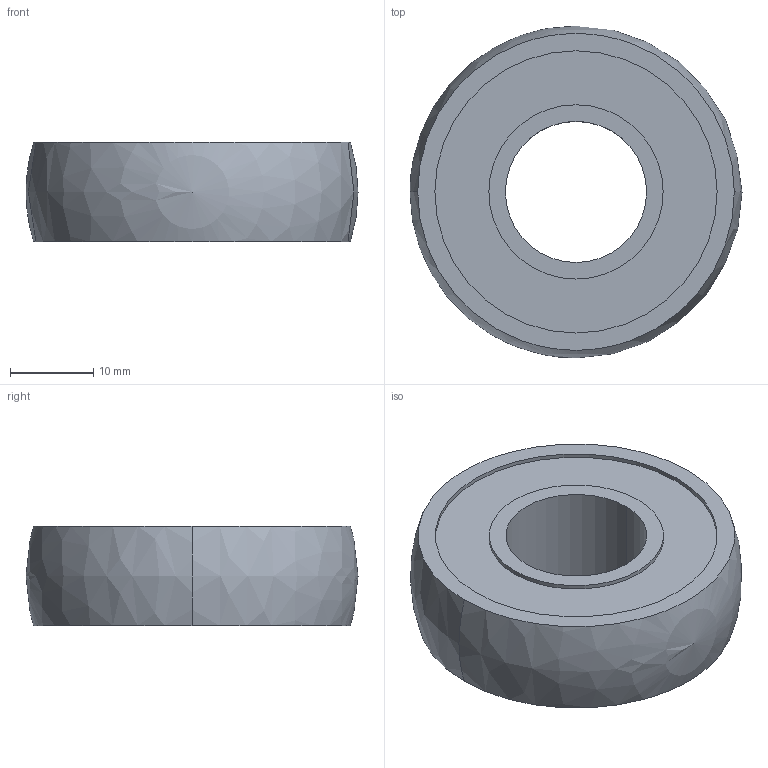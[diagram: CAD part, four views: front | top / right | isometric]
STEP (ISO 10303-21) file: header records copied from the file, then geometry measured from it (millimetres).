
FILE_DESCRIPTION (( 'STEP AP203' ), '1' );
FILE_NAME ('084.802.016.STEP', '2013-01-29T09:32:18', ( 'Alusic' ), ( 'Alusic' ), 'SwSTEP 2.0', 'SolidWorks 2011', '' );
FILE_SCHEMA (( 'CONFIG_CONTROL_DESIGN' ));
Length unit declared in the file: millimetre
Products named in the file (1): 084.802.016
Bounding box: 40 x 40 x 12 mm (x, y, z)
Volume: 10038.8 mm3; surface area: 8773.3 mm2
Topology: 2 solids, 3 shells, 38 faces, 81 edges, 49 vertices
Faces by surface type: cylinder 18, torus 10, plane 8, sphere 2
Entity records: 1091 total; most frequent: DIRECTION 212, CARTESIAN_POINT 161, ORIENTED_EDGE 152, AXIS2_PLACEMENT_3D 97, EDGE_CURVE 76, CIRCLE 58, EDGE_LOOP 46, VERTEX_POINT 46
